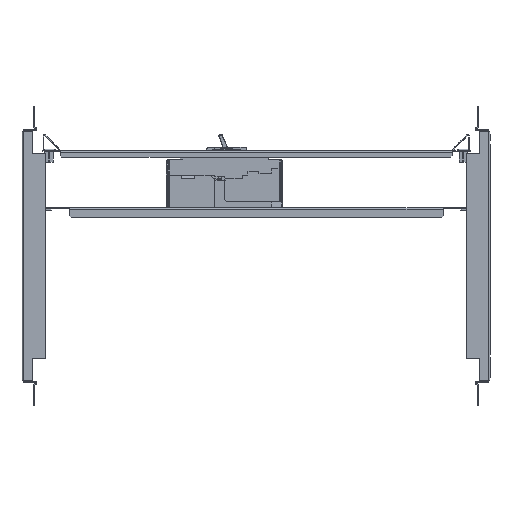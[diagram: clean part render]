
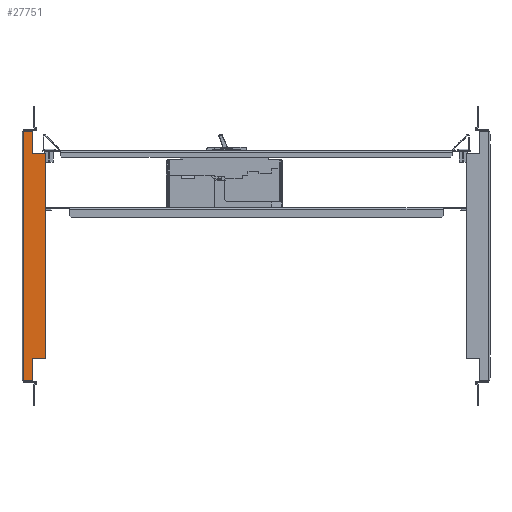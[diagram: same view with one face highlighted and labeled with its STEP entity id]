
A CAD part, front view. The second image highlights one B-rep face of the part: STEP entity #27751.
In plain terms, the highlighted planar face has unit normal (0, -1, 0).
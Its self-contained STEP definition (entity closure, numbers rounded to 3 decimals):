
#24546=CARTESIAN_POINT(' ',(-265.611,-69.467,-160.546));
#24547=VERTEX_POINT(' ',#24546);
#25726=CARTESIAN_POINT(' ',(-265.611,-69.467,120.252));
#25727=VERTEX_POINT(' ',#25726);
#26366=CARTESIAN_POINT(' ',(-257.711,-69.467,-160.546));
#26367=VERTEX_POINT(' ',#26366);
#26381=CARTESIAN_POINT(' ',(-265.611,-69.467,-160.546));
#26386=DIRECTION(' ',(1.,0.,0.));
#26391=VECTOR(' ',#26386,1.);
#26396=LINE('',#26381,#26391);
#26401=EDGE_CURVE(' ',#24547,#26367,#26396,.T.);
#26466=CARTESIAN_POINT(' ',(-265.611,-69.467,-160.546));
#26471=DIRECTION(' ',(0.,0.,1.));
#26476=VECTOR(' ',#26471,1.);
#26481=LINE('',#26466,#26476);
#26486=EDGE_CURVE(' ',#24547,#25727,#26481,.T.);
#26541=CARTESIAN_POINT(' ',(-265.611,-69.467,120.252));
#26546=DIRECTION(' ',(1.,0.,0.));
#26551=VECTOR(' ',#26546,1.);
#26556=LINE('',#26541,#26551);
#26561=CARTESIAN_POINT(' ',(-257.711,-69.467,120.252));
#26562=VERTEX_POINT(' ',#26561);
#26566=EDGE_CURVE(' ',#25727,#26562,#26556,.T.);
#26656=CARTESIAN_POINT(' ',(-257.71,-69.467,118.752));
#26661=DIRECTION(' ',(-0.,-1.,-0.));
#26666=DIRECTION(' ',(1.,0.,0.));
#26671=AXIS2_PLACEMENT_3D(' ',#26656,#26661,#26666);
#26676=CIRCLE('',#26671,1.5);
#26681=CARTESIAN_POINT(' ',(-256.211,-69.467,118.752));
#26682=VERTEX_POINT(' ',#26681);
#26686=EDGE_CURVE(' ',#26682,#26562,#26676,.T.);
#26786=CARTESIAN_POINT(' ',(-256.211,-69.467,118.752));
#26791=DIRECTION(' ',(0.,0.,-1.));
#26796=VECTOR(' ',#26791,1.);
#26801=LINE('',#26786,#26796);
#26806=CARTESIAN_POINT(' ',(-256.211,-69.467,94.852));
#26807=VERTEX_POINT(' ',#26806);
#26811=EDGE_CURVE(' ',#26682,#26807,#26801,.T.);
#26891=CARTESIAN_POINT(' ',(-256.211,-69.467,94.852));
#26896=DIRECTION(' ',(1.,0.,0.));
#26901=VECTOR(' ',#26896,1.);
#26906=LINE('',#26891,#26901);
#26911=CARTESIAN_POINT(' ',(-242.711,-69.467,94.852));
#26912=VERTEX_POINT(' ',#26911);
#26916=EDGE_CURVE(' ',#26807,#26912,#26906,.T.);
#27006=CARTESIAN_POINT(' ',(-242.71,-69.467,93.352));
#27011=DIRECTION(' ',(-0.,-1.,-0.));
#27016=DIRECTION(' ',(1.,0.,0.));
#27021=AXIS2_PLACEMENT_3D(' ',#27006,#27011,#27016);
#27026=CIRCLE('',#27021,1.5);
#27031=CARTESIAN_POINT(' ',(-241.211,-69.467,93.352));
#27032=VERTEX_POINT(' ',#27031);
#27036=EDGE_CURVE(' ',#27032,#26912,#27026,.T.);
#27126=CARTESIAN_POINT(' ',(-241.211,-69.467,-133.646));
#27131=DIRECTION(' ',(0.,0.,1.));
#27136=VECTOR(' ',#27131,1.);
#27141=LINE('',#27126,#27136);
#27146=CARTESIAN_POINT(' ',(-241.211,-69.467,-133.646));
#27147=VERTEX_POINT(' ',#27146);
#27151=EDGE_CURVE(' ',#27147,#27032,#27141,.T.);
#27241=CARTESIAN_POINT(' ',(-242.71,-69.467,-133.647));
#27246=DIRECTION(' ',(-0.,-1.,0.));
#27251=DIRECTION(' ',(0.,0.,-1.));
#27256=AXIS2_PLACEMENT_3D(' ',#27241,#27246,#27251);
#27261=CIRCLE('',#27256,1.499);
#27266=CARTESIAN_POINT(' ',(-242.711,-69.467,-135.146));
#27267=VERTEX_POINT(' ',#27266);
#27271=EDGE_CURVE(' ',#27267,#27147,#27261,.T.);
#27371=CARTESIAN_POINT(' ',(-256.211,-69.467,-135.146));
#27376=DIRECTION(' ',(1.,0.,0.));
#27381=VECTOR(' ',#27376,1.);
#27386=LINE('',#27371,#27381);
#27391=CARTESIAN_POINT(' ',(-256.211,-69.467,-135.146));
#27392=VERTEX_POINT(' ',#27391);
#27396=EDGE_CURVE(' ',#27392,#27267,#27386,.T.);
#27476=CARTESIAN_POINT(' ',(-256.211,-69.467,-159.046));
#27481=DIRECTION(' ',(0.,0.,1.));
#27486=VECTOR(' ',#27481,1.);
#27491=LINE('',#27476,#27486);
#27496=CARTESIAN_POINT(' ',(-256.211,-69.467,-159.046));
#27497=VERTEX_POINT(' ',#27496);
#27501=EDGE_CURVE(' ',#27497,#27392,#27491,.T.);
#27601=CARTESIAN_POINT(' ',(-257.71,-69.467,-159.047));
#27606=DIRECTION(' ',(-0.,-1.,0.));
#27611=DIRECTION(' ',(0.,0.,-1.));
#27616=AXIS2_PLACEMENT_3D(' ',#27601,#27606,#27611);
#27621=CIRCLE('',#27616,1.499);
#27626=EDGE_CURVE(' ',#26367,#27497,#27621,.T.);
#27656=DIRECTION(' ',(0.,-1.,0.));
#27661=CARTESIAN_POINT(' ',(-265.611,-69.467,120.252));
#27666=DIRECTION(' ',(0.,0.,-1.));
#27671=AXIS2_PLACEMENT_3D(' ',#27661,#27656,#27666);
#27676=PLANE('NONE',#27671);
#27681=ORIENTED_EDGE(' ',*,*,#26811,.F.);
#27686=ORIENTED_EDGE(' ',*,*,#26686,.T.);
#27691=ORIENTED_EDGE(' ',*,*,#26566,.F.);
#27696=ORIENTED_EDGE(' ',*,*,#26486,.F.);
#27701=ORIENTED_EDGE(' ',*,*,#26401,.T.);
#27706=ORIENTED_EDGE(' ',*,*,#27626,.T.);
#27711=ORIENTED_EDGE(' ',*,*,#27501,.T.);
#27716=ORIENTED_EDGE(' ',*,*,#27396,.T.);
#27721=ORIENTED_EDGE(' ',*,*,#27271,.T.);
#27726=ORIENTED_EDGE(' ',*,*,#27151,.T.);
#27731=ORIENTED_EDGE(' ',*,*,#27036,.T.);
#27736=ORIENTED_EDGE(' ',*,*,#26916,.F.);
#27741=EDGE_LOOP(' ',(#27681,#27686,#27691,#27696,#27701,#27706,#27711,#27716,#27721,#27726,#27731,#27736));
#27746=FACE_OUTER_BOUND(' ',#27741,.T.);
#27751=ADVANCED_FACE('NONE',(#27746),#27676,.T.);
